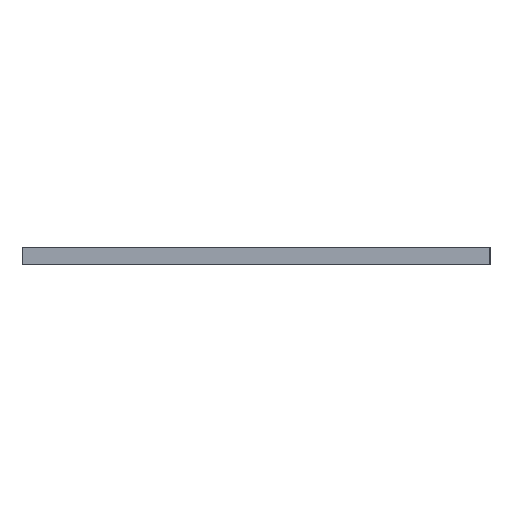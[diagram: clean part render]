
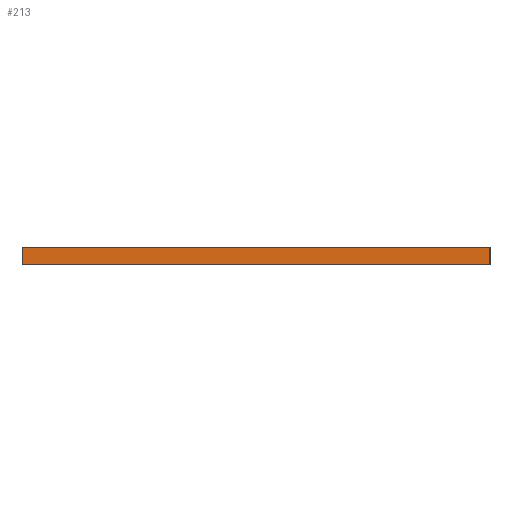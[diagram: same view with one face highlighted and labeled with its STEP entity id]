
A CAD part, left-side view. The second image highlights one B-rep face of the part: STEP entity #213.
In plain terms, the highlighted planar face has unit normal (-1, 0, 0).
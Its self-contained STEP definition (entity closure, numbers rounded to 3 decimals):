
#44 = PLANE('',#45);
#45 = AXIS2_PLACEMENT_3D('',#46,#47,#48);
#46 = CARTESIAN_POINT('',(-240.,0.,0.));
#47 = DIRECTION('',(0.,1.,0.));
#48 = DIRECTION('',(1.,0.,0.));
#72 = PLANE('',#73);
#73 = AXIS2_PLACEMENT_3D('',#74,#75,#76);
#74 = CARTESIAN_POINT('',(-120.,137.5,10.));
#75 = DIRECTION('',(0.,0.,1.));
#76 = DIRECTION('',(1.,0.,0.));
#100 = PLANE('',#101);
#101 = AXIS2_PLACEMENT_3D('',#102,#103,#104);
#102 = CARTESIAN_POINT('',(0.,275.,0.));
#103 = DIRECTION('',(0.,-1.,0.));
#104 = DIRECTION('',(-1.,0.,0.));
#126 = PLANE('',#127);
#127 = AXIS2_PLACEMENT_3D('',#128,#129,#130);
#128 = CARTESIAN_POINT('',(-120.,137.5,0.));
#129 = DIRECTION('',(0.,0.,1.));
#130 = DIRECTION('',(1.,0.,0.));
#143 = VERTEX_POINT('',#144);
#144 = CARTESIAN_POINT('',(-240.,275.,10.));
#165 = EDGE_CURVE('',#166,#143,#168,.T.);
#166 = VERTEX_POINT('',#167);
#167 = CARTESIAN_POINT('',(-240.,275.,0.));
#168 = SURFACE_CURVE('',#169,(#173,#180),.PCURVE_S1.);
#169 = LINE('',#170,#171);
#170 = CARTESIAN_POINT('',(-240.,275.,0.));
#171 = VECTOR('',#172,1.);
#172 = DIRECTION('',(0.,0.,1.));
#173 = PCURVE('',#100,#174);
#174 = DEFINITIONAL_REPRESENTATION('',(#175),#179);
#175 = LINE('',#176,#177);
#176 = CARTESIAN_POINT('',(240.,0.));
#177 = VECTOR('',#178,1.);
#178 = DIRECTION('',(0.,-1.));
#179 = ( GEOMETRIC_REPRESENTATION_CONTEXT(2) 
PARAMETRIC_REPRESENTATION_CONTEXT() REPRESENTATION_CONTEXT('2D SPACE',''
  ) );
#180 = PCURVE('',#181,#186);
#181 = PLANE('',#182);
#182 = AXIS2_PLACEMENT_3D('',#183,#184,#185);
#183 = CARTESIAN_POINT('',(-240.,275.,0.));
#184 = DIRECTION('',(1.,0.,0.));
#185 = DIRECTION('',(0.,-1.,0.));
#186 = DEFINITIONAL_REPRESENTATION('',(#187),#191);
#187 = LINE('',#188,#189);
#188 = CARTESIAN_POINT('',(0.,0.));
#189 = VECTOR('',#190,1.);
#190 = DIRECTION('',(0.,-1.));
#191 = ( GEOMETRIC_REPRESENTATION_CONTEXT(2) 
PARAMETRIC_REPRESENTATION_CONTEXT() REPRESENTATION_CONTEXT('2D SPACE',''
  ) );
#213 = ADVANCED_FACE('',(#214),#181,.F.);
#214 = FACE_BOUND('',#215,.F.);
#215 = EDGE_LOOP('',(#216,#217,#240,#263));
#216 = ORIENTED_EDGE('',*,*,#165,.T.);
#217 = ORIENTED_EDGE('',*,*,#218,.T.);
#218 = EDGE_CURVE('',#143,#219,#221,.T.);
#219 = VERTEX_POINT('',#220);
#220 = CARTESIAN_POINT('',(-240.,0.,10.));
#221 = SURFACE_CURVE('',#222,(#226,#233),.PCURVE_S1.);
#222 = LINE('',#223,#224);
#223 = CARTESIAN_POINT('',(-240.,275.,10.));
#224 = VECTOR('',#225,1.);
#225 = DIRECTION('',(0.,-1.,0.));
#226 = PCURVE('',#181,#227);
#227 = DEFINITIONAL_REPRESENTATION('',(#228),#232);
#228 = LINE('',#229,#230);
#229 = CARTESIAN_POINT('',(0.,-10.));
#230 = VECTOR('',#231,1.);
#231 = DIRECTION('',(1.,0.));
#232 = ( GEOMETRIC_REPRESENTATION_CONTEXT(2) 
PARAMETRIC_REPRESENTATION_CONTEXT() REPRESENTATION_CONTEXT('2D SPACE',''
  ) );
#233 = PCURVE('',#72,#234);
#234 = DEFINITIONAL_REPRESENTATION('',(#235),#239);
#235 = LINE('',#236,#237);
#236 = CARTESIAN_POINT('',(-120.,137.5));
#237 = VECTOR('',#238,1.);
#238 = DIRECTION('',(0.,-1.));
#239 = ( GEOMETRIC_REPRESENTATION_CONTEXT(2) 
PARAMETRIC_REPRESENTATION_CONTEXT() REPRESENTATION_CONTEXT('2D SPACE',''
  ) );
#240 = ORIENTED_EDGE('',*,*,#241,.F.);
#241 = EDGE_CURVE('',#242,#219,#244,.T.);
#242 = VERTEX_POINT('',#243);
#243 = CARTESIAN_POINT('',(-240.,0.,0.));
#244 = SURFACE_CURVE('',#245,(#249,#256),.PCURVE_S1.);
#245 = LINE('',#246,#247);
#246 = CARTESIAN_POINT('',(-240.,0.,0.));
#247 = VECTOR('',#248,1.);
#248 = DIRECTION('',(0.,0.,1.));
#249 = PCURVE('',#181,#250);
#250 = DEFINITIONAL_REPRESENTATION('',(#251),#255);
#251 = LINE('',#252,#253);
#252 = CARTESIAN_POINT('',(275.,0.));
#253 = VECTOR('',#254,1.);
#254 = DIRECTION('',(0.,-1.));
#255 = ( GEOMETRIC_REPRESENTATION_CONTEXT(2) 
PARAMETRIC_REPRESENTATION_CONTEXT() REPRESENTATION_CONTEXT('2D SPACE',''
  ) );
#256 = PCURVE('',#44,#257);
#257 = DEFINITIONAL_REPRESENTATION('',(#258),#262);
#258 = LINE('',#259,#260);
#259 = CARTESIAN_POINT('',(0.,0.));
#260 = VECTOR('',#261,1.);
#261 = DIRECTION('',(0.,-1.));
#262 = ( GEOMETRIC_REPRESENTATION_CONTEXT(2) 
PARAMETRIC_REPRESENTATION_CONTEXT() REPRESENTATION_CONTEXT('2D SPACE',''
  ) );
#263 = ORIENTED_EDGE('',*,*,#264,.F.);
#264 = EDGE_CURVE('',#166,#242,#265,.T.);
#265 = SURFACE_CURVE('',#266,(#270,#277),.PCURVE_S1.);
#266 = LINE('',#267,#268);
#267 = CARTESIAN_POINT('',(-240.,275.,0.));
#268 = VECTOR('',#269,1.);
#269 = DIRECTION('',(0.,-1.,0.));
#270 = PCURVE('',#181,#271);
#271 = DEFINITIONAL_REPRESENTATION('',(#272),#276);
#272 = LINE('',#273,#274);
#273 = CARTESIAN_POINT('',(0.,0.));
#274 = VECTOR('',#275,1.);
#275 = DIRECTION('',(1.,0.));
#276 = ( GEOMETRIC_REPRESENTATION_CONTEXT(2) 
PARAMETRIC_REPRESENTATION_CONTEXT() REPRESENTATION_CONTEXT('2D SPACE',''
  ) );
#277 = PCURVE('',#126,#278);
#278 = DEFINITIONAL_REPRESENTATION('',(#279),#283);
#279 = LINE('',#280,#281);
#280 = CARTESIAN_POINT('',(-120.,137.5));
#281 = VECTOR('',#282,1.);
#282 = DIRECTION('',(0.,-1.));
#283 = ( GEOMETRIC_REPRESENTATION_CONTEXT(2) 
PARAMETRIC_REPRESENTATION_CONTEXT() REPRESENTATION_CONTEXT('2D SPACE',''
  ) );
